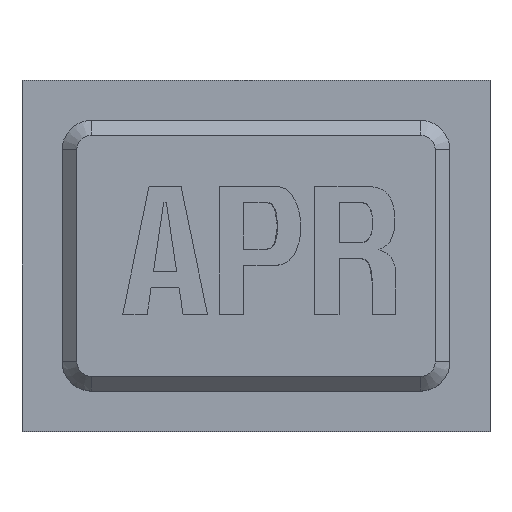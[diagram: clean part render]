
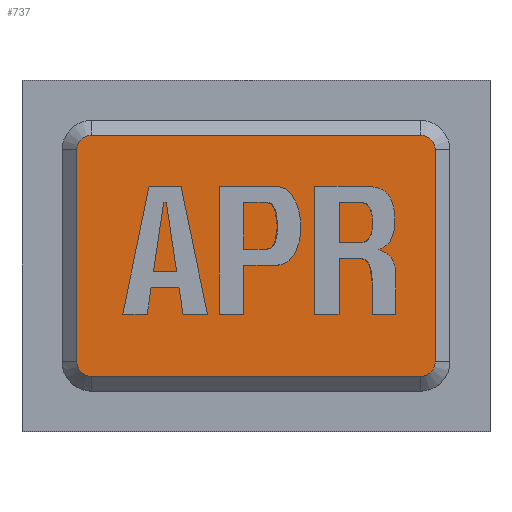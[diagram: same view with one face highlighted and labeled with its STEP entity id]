
A CAD part, top view. The second image highlights one B-rep face of the part: STEP entity #737.
In plain terms, the highlighted planar face has unit normal (0, 0, 1).
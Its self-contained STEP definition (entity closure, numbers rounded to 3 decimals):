
#72 = PLANE('',#73);
#73 = AXIS2_PLACEMENT_3D('',#74,#75,#76);
#74 = CARTESIAN_POINT('',(2.375,1.625,4.25));
#75 = DIRECTION('',(0.,0.707,-0.707));
#76 = DIRECTION('',(-1.,-0.,-0.));
#213 = CONICAL_SURFACE('',#214,1.,0.785);
#214 = AXIS2_PLACEMENT_3D('',#215,#216,#217);
#215 = CARTESIAN_POINT('',(2.375,2.375,4.));
#216 = DIRECTION('',(-0.,-0.,-1.));
#217 = DIRECTION('',(-1.,0.,0.));
#229 = VERTEX_POINT('',#230);
#230 = CARTESIAN_POINT('',(2.375,1.875,4.5));
#253 = VERTEX_POINT('',#254);
#254 = CARTESIAN_POINT('',(13.625,1.875,4.5));
#268 = CONICAL_SURFACE('',#269,1.,0.785);
#269 = AXIS2_PLACEMENT_3D('',#270,#271,#272);
#270 = CARTESIAN_POINT('',(13.625,2.375,4.));
#271 = DIRECTION('',(-0.,-0.,-1.));
#272 = DIRECTION('',(0.,-1.,0.));
#280 = EDGE_CURVE('',#229,#253,#281,.T.);
#281 = SURFACE_CURVE('',#282,(#286,#293),.PCURVE_S1.);
#282 = LINE('',#283,#284);
#283 = CARTESIAN_POINT('',(2.375,1.875,4.5));
#284 = VECTOR('',#285,1.);
#285 = DIRECTION('',(1.,0.,0.));
#286 = PCURVE('',#72,#287);
#287 = DEFINITIONAL_REPRESENTATION('',(#288),#292);
#288 = LINE('',#289,#290);
#289 = CARTESIAN_POINT('',(-0.,0.354));
#290 = VECTOR('',#291,1.);
#291 = DIRECTION('',(-1.,0.));
#292 = ( GEOMETRIC_REPRESENTATION_CONTEXT(2) 
PARAMETRIC_REPRESENTATION_CONTEXT() REPRESENTATION_CONTEXT('2D SPACE',''
  ) );
#293 = PCURVE('',#294,#299);
#294 = PLANE('',#295);
#295 = AXIS2_PLACEMENT_3D('',#296,#297,#298);
#296 = CARTESIAN_POINT('',(8.,6.,4.5));
#297 = DIRECTION('',(0.,0.,1.));
#298 = DIRECTION('',(1.,0.,0.));
#299 = DEFINITIONAL_REPRESENTATION('',(#300),#304);
#300 = LINE('',#301,#302);
#301 = CARTESIAN_POINT('',(-5.625,-4.125));
#302 = VECTOR('',#303,1.);
#303 = DIRECTION('',(1.,0.));
#304 = ( GEOMETRIC_REPRESENTATION_CONTEXT(2) 
PARAMETRIC_REPRESENTATION_CONTEXT() REPRESENTATION_CONTEXT('2D SPACE',''
  ) );
#638 = VERTEX_POINT('',#639);
#639 = CARTESIAN_POINT('',(1.875,2.375,4.5));
#653 = PLANE('',#654);
#654 = AXIS2_PLACEMENT_3D('',#655,#656,#657);
#655 = CARTESIAN_POINT('',(1.625,9.625,4.25));
#656 = DIRECTION('',(0.707,0.,-0.707));
#657 = DIRECTION('',(0.,1.,0.));
#667 = EDGE_CURVE('',#638,#229,#668,.T.);
#668 = SURFACE_CURVE('',#669,(#674,#681),.PCURVE_S1.);
#669 = CIRCLE('',#670,0.5);
#670 = AXIS2_PLACEMENT_3D('',#671,#672,#673);
#671 = CARTESIAN_POINT('',(2.375,2.375,4.5));
#672 = DIRECTION('',(0.,0.,1.));
#673 = DIRECTION('',(-1.,0.,0.));
#674 = PCURVE('',#213,#675);
#675 = DEFINITIONAL_REPRESENTATION('',(#676),#680);
#676 = LINE('',#677,#678);
#677 = CARTESIAN_POINT('',(-0.,-0.5));
#678 = VECTOR('',#679,1.);
#679 = DIRECTION('',(-1.,-0.));
#680 = ( GEOMETRIC_REPRESENTATION_CONTEXT(2) 
PARAMETRIC_REPRESENTATION_CONTEXT() REPRESENTATION_CONTEXT('2D SPACE',''
  ) );
#681 = PCURVE('',#294,#682);
#682 = DEFINITIONAL_REPRESENTATION('',(#683),#687);
#683 = CIRCLE('',#684,0.5);
#684 = AXIS2_PLACEMENT_2D('',#685,#686);
#685 = CARTESIAN_POINT('',(-5.625,-3.625));
#686 = DIRECTION('',(-1.,0.));
#687 = ( GEOMETRIC_REPRESENTATION_CONTEXT(2) 
PARAMETRIC_REPRESENTATION_CONTEXT() REPRESENTATION_CONTEXT('2D SPACE',''
  ) );
#737 = ADVANCED_FACE('',(#738),#294,.T.);
#738 = FACE_BOUND('',#739,.T.);
#739 = EDGE_LOOP('',(#740,#741,#765,#793,#822,#850,#879,#900));
#740 = ORIENTED_EDGE('',*,*,#280,.T.);
#741 = ORIENTED_EDGE('',*,*,#742,.T.);
#742 = EDGE_CURVE('',#253,#743,#745,.T.);
#743 = VERTEX_POINT('',#744);
#744 = CARTESIAN_POINT('',(14.125,2.375,4.5));
#745 = SURFACE_CURVE('',#746,(#751,#758),.PCURVE_S1.);
#746 = CIRCLE('',#747,0.5);
#747 = AXIS2_PLACEMENT_3D('',#748,#749,#750);
#748 = CARTESIAN_POINT('',(13.625,2.375,4.5));
#749 = DIRECTION('',(-0.,0.,1.));
#750 = DIRECTION('',(0.,-1.,0.));
#751 = PCURVE('',#294,#752);
#752 = DEFINITIONAL_REPRESENTATION('',(#753),#757);
#753 = CIRCLE('',#754,0.5);
#754 = AXIS2_PLACEMENT_2D('',#755,#756);
#755 = CARTESIAN_POINT('',(5.625,-3.625));
#756 = DIRECTION('',(0.,-1.));
#757 = ( GEOMETRIC_REPRESENTATION_CONTEXT(2) 
PARAMETRIC_REPRESENTATION_CONTEXT() REPRESENTATION_CONTEXT('2D SPACE',''
  ) );
#758 = PCURVE('',#268,#759);
#759 = DEFINITIONAL_REPRESENTATION('',(#760),#764);
#760 = LINE('',#761,#762);
#761 = CARTESIAN_POINT('',(-0.,-0.5));
#762 = VECTOR('',#763,1.);
#763 = DIRECTION('',(-1.,-0.));
#764 = ( GEOMETRIC_REPRESENTATION_CONTEXT(2) 
PARAMETRIC_REPRESENTATION_CONTEXT() REPRESENTATION_CONTEXT('2D SPACE',''
  ) );
#765 = ORIENTED_EDGE('',*,*,#766,.T.);
#766 = EDGE_CURVE('',#743,#767,#769,.T.);
#767 = VERTEX_POINT('',#768);
#768 = CARTESIAN_POINT('',(14.125,9.625,4.5));
#769 = SURFACE_CURVE('',#770,(#774,#781),.PCURVE_S1.);
#770 = LINE('',#771,#772);
#771 = CARTESIAN_POINT('',(14.125,2.375,4.5));
#772 = VECTOR('',#773,1.);
#773 = DIRECTION('',(0.,1.,0.));
#774 = PCURVE('',#294,#775);
#775 = DEFINITIONAL_REPRESENTATION('',(#776),#780);
#776 = LINE('',#777,#778);
#777 = CARTESIAN_POINT('',(6.125,-3.625));
#778 = VECTOR('',#779,1.);
#779 = DIRECTION('',(0.,1.));
#780 = ( GEOMETRIC_REPRESENTATION_CONTEXT(2) 
PARAMETRIC_REPRESENTATION_CONTEXT() REPRESENTATION_CONTEXT('2D SPACE',''
  ) );
#781 = PCURVE('',#782,#787);
#782 = PLANE('',#783);
#783 = AXIS2_PLACEMENT_3D('',#784,#785,#786);
#784 = CARTESIAN_POINT('',(14.375,2.375,4.25));
#785 = DIRECTION('',(-0.707,0.,-0.707));
#786 = DIRECTION('',(-0.,-1.,-0.));
#787 = DEFINITIONAL_REPRESENTATION('',(#788),#792);
#788 = LINE('',#789,#790);
#789 = CARTESIAN_POINT('',(-0.,0.354));
#790 = VECTOR('',#791,1.);
#791 = DIRECTION('',(-1.,0.));
#792 = ( GEOMETRIC_REPRESENTATION_CONTEXT(2) 
PARAMETRIC_REPRESENTATION_CONTEXT() REPRESENTATION_CONTEXT('2D SPACE',''
  ) );
#793 = ORIENTED_EDGE('',*,*,#794,.T.);
#794 = EDGE_CURVE('',#767,#795,#797,.T.);
#795 = VERTEX_POINT('',#796);
#796 = CARTESIAN_POINT('',(13.625,10.125,4.5));
#797 = SURFACE_CURVE('',#798,(#803,#810),.PCURVE_S1.);
#798 = CIRCLE('',#799,0.5);
#799 = AXIS2_PLACEMENT_3D('',#800,#801,#802);
#800 = CARTESIAN_POINT('',(13.625,9.625,4.5));
#801 = DIRECTION('',(0.,0.,1.));
#802 = DIRECTION('',(1.,0.,0.));
#803 = PCURVE('',#294,#804);
#804 = DEFINITIONAL_REPRESENTATION('',(#805),#809);
#805 = CIRCLE('',#806,0.5);
#806 = AXIS2_PLACEMENT_2D('',#807,#808);
#807 = CARTESIAN_POINT('',(5.625,3.625));
#808 = DIRECTION('',(1.,0.));
#809 = ( GEOMETRIC_REPRESENTATION_CONTEXT(2) 
PARAMETRIC_REPRESENTATION_CONTEXT() REPRESENTATION_CONTEXT('2D SPACE',''
  ) );
#810 = PCURVE('',#811,#816);
#811 = CONICAL_SURFACE('',#812,1.,0.785);
#812 = AXIS2_PLACEMENT_3D('',#813,#814,#815);
#813 = CARTESIAN_POINT('',(13.625,9.625,4.));
#814 = DIRECTION('',(-0.,-0.,-1.));
#815 = DIRECTION('',(1.,0.,0.));
#816 = DEFINITIONAL_REPRESENTATION('',(#817),#821);
#817 = LINE('',#818,#819);
#818 = CARTESIAN_POINT('',(-0.,-0.5));
#819 = VECTOR('',#820,1.);
#820 = DIRECTION('',(-1.,-0.));
#821 = ( GEOMETRIC_REPRESENTATION_CONTEXT(2) 
PARAMETRIC_REPRESENTATION_CONTEXT() REPRESENTATION_CONTEXT('2D SPACE',''
  ) );
#822 = ORIENTED_EDGE('',*,*,#823,.T.);
#823 = EDGE_CURVE('',#795,#824,#826,.T.);
#824 = VERTEX_POINT('',#825);
#825 = CARTESIAN_POINT('',(2.375,10.125,4.5));
#826 = SURFACE_CURVE('',#827,(#831,#838),.PCURVE_S1.);
#827 = LINE('',#828,#829);
#828 = CARTESIAN_POINT('',(13.625,10.125,4.5));
#829 = VECTOR('',#830,1.);
#830 = DIRECTION('',(-1.,0.,0.));
#831 = PCURVE('',#294,#832);
#832 = DEFINITIONAL_REPRESENTATION('',(#833),#837);
#833 = LINE('',#834,#835);
#834 = CARTESIAN_POINT('',(5.625,4.125));
#835 = VECTOR('',#836,1.);
#836 = DIRECTION('',(-1.,0.));
#837 = ( GEOMETRIC_REPRESENTATION_CONTEXT(2) 
PARAMETRIC_REPRESENTATION_CONTEXT() REPRESENTATION_CONTEXT('2D SPACE',''
  ) );
#838 = PCURVE('',#839,#844);
#839 = PLANE('',#840);
#840 = AXIS2_PLACEMENT_3D('',#841,#842,#843);
#841 = CARTESIAN_POINT('',(13.625,10.375,4.25));
#842 = DIRECTION('',(0.,-0.707,-0.707));
#843 = DIRECTION('',(1.,0.,0.));
#844 = DEFINITIONAL_REPRESENTATION('',(#845),#849);
#845 = LINE('',#846,#847);
#846 = CARTESIAN_POINT('',(-0.,0.354));
#847 = VECTOR('',#848,1.);
#848 = DIRECTION('',(-1.,0.));
#849 = ( GEOMETRIC_REPRESENTATION_CONTEXT(2) 
PARAMETRIC_REPRESENTATION_CONTEXT() REPRESENTATION_CONTEXT('2D SPACE',''
  ) );
#850 = ORIENTED_EDGE('',*,*,#851,.T.);
#851 = EDGE_CURVE('',#824,#852,#854,.T.);
#852 = VERTEX_POINT('',#853);
#853 = CARTESIAN_POINT('',(1.875,9.625,4.5));
#854 = SURFACE_CURVE('',#855,(#860,#867),.PCURVE_S1.);
#855 = CIRCLE('',#856,0.5);
#856 = AXIS2_PLACEMENT_3D('',#857,#858,#859);
#857 = CARTESIAN_POINT('',(2.375,9.625,4.5));
#858 = DIRECTION('',(0.,-0.,1.));
#859 = DIRECTION('',(0.,1.,0.));
#860 = PCURVE('',#294,#861);
#861 = DEFINITIONAL_REPRESENTATION('',(#862),#866);
#862 = CIRCLE('',#863,0.5);
#863 = AXIS2_PLACEMENT_2D('',#864,#865);
#864 = CARTESIAN_POINT('',(-5.625,3.625));
#865 = DIRECTION('',(0.,1.));
#866 = ( GEOMETRIC_REPRESENTATION_CONTEXT(2) 
PARAMETRIC_REPRESENTATION_CONTEXT() REPRESENTATION_CONTEXT('2D SPACE',''
  ) );
#867 = PCURVE('',#868,#873);
#868 = CONICAL_SURFACE('',#869,1.,0.785);
#869 = AXIS2_PLACEMENT_3D('',#870,#871,#872);
#870 = CARTESIAN_POINT('',(2.375,9.625,4.));
#871 = DIRECTION('',(-0.,-0.,-1.));
#872 = DIRECTION('',(0.,1.,0.));
#873 = DEFINITIONAL_REPRESENTATION('',(#874),#878);
#874 = LINE('',#875,#876);
#875 = CARTESIAN_POINT('',(-0.,-0.5));
#876 = VECTOR('',#877,1.);
#877 = DIRECTION('',(-1.,-0.));
#878 = ( GEOMETRIC_REPRESENTATION_CONTEXT(2) 
PARAMETRIC_REPRESENTATION_CONTEXT() REPRESENTATION_CONTEXT('2D SPACE',''
  ) );
#879 = ORIENTED_EDGE('',*,*,#880,.T.);
#880 = EDGE_CURVE('',#852,#638,#881,.T.);
#881 = SURFACE_CURVE('',#882,(#886,#893),.PCURVE_S1.);
#882 = LINE('',#883,#884);
#883 = CARTESIAN_POINT('',(1.875,9.625,4.5));
#884 = VECTOR('',#885,1.);
#885 = DIRECTION('',(0.,-1.,0.));
#886 = PCURVE('',#294,#887);
#887 = DEFINITIONAL_REPRESENTATION('',(#888),#892);
#888 = LINE('',#889,#890);
#889 = CARTESIAN_POINT('',(-6.125,3.625));
#890 = VECTOR('',#891,1.);
#891 = DIRECTION('',(0.,-1.));
#892 = ( GEOMETRIC_REPRESENTATION_CONTEXT(2) 
PARAMETRIC_REPRESENTATION_CONTEXT() REPRESENTATION_CONTEXT('2D SPACE',''
  ) );
#893 = PCURVE('',#653,#894);
#894 = DEFINITIONAL_REPRESENTATION('',(#895),#899);
#895 = LINE('',#896,#897);
#896 = CARTESIAN_POINT('',(-0.,0.354));
#897 = VECTOR('',#898,1.);
#898 = DIRECTION('',(-1.,0.));
#899 = ( GEOMETRIC_REPRESENTATION_CONTEXT(2) 
PARAMETRIC_REPRESENTATION_CONTEXT() REPRESENTATION_CONTEXT('2D SPACE',''
  ) );
#900 = ORIENTED_EDGE('',*,*,#667,.T.);
